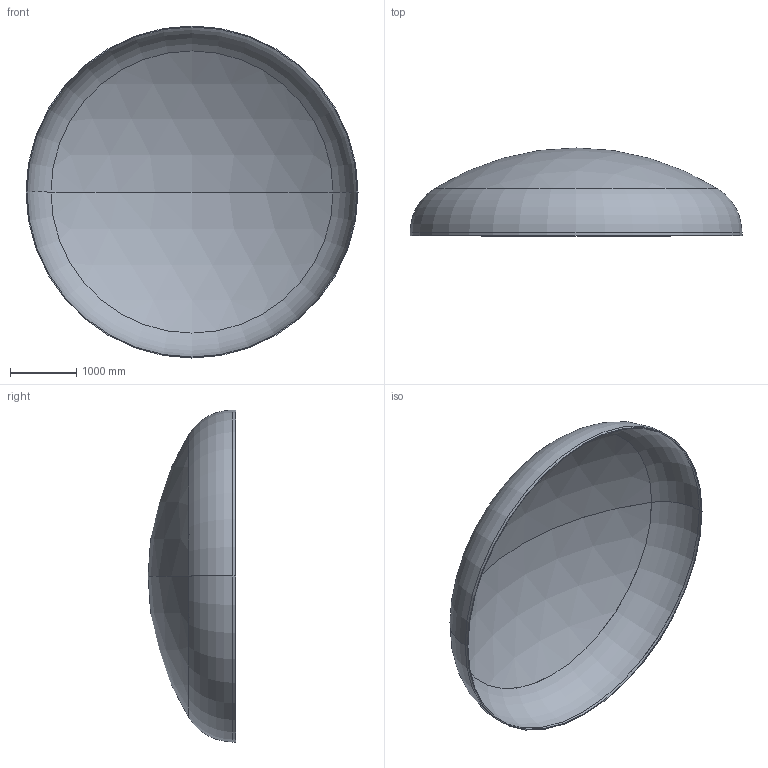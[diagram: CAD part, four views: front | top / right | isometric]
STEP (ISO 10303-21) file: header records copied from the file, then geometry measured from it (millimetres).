
FILE_DESCRIPTION (( 'STEP AP203' ), '1' );
FILE_NAME ('DIN 28013 Korbbogenform_-_Boden DIN 28013 - 5000 x 45 - I - s=14.step', '2016-07-02T00:06:56', ( '' ), ( '' ), 'SwSTEP 2.0', 'SolidWorks 2013', '' );
FILE_SCHEMA (( 'CONFIG_CONTROL_DESIGN' ));
Length unit declared in the file: millimetre
Products named in the file (1): DIN 28013 Korbbogenform_-_Boden DIN 28013 - 5000 x 45 - I - s=14
Bounding box: 5000 x 1322.53 x 5000 mm (x, y, z)
Volume: 389207504.2 mm3; surface area: 55820755.6 mm2
Topology: 1 solids, 1 shells, 13 faces, 24 edges, 14 vertices
Faces by surface type: torus 4, cylinder 4, sphere 4, plane 1
Entity records: 407 total; most frequent: DIRECTION 72, CARTESIAN_POINT 52, ORIENTED_EDGE 48, AXIS2_PLACEMENT_3D 34, EDGE_CURVE 24, CIRCLE 20, EDGE_LOOP 14, VERTEX_POINT 14
